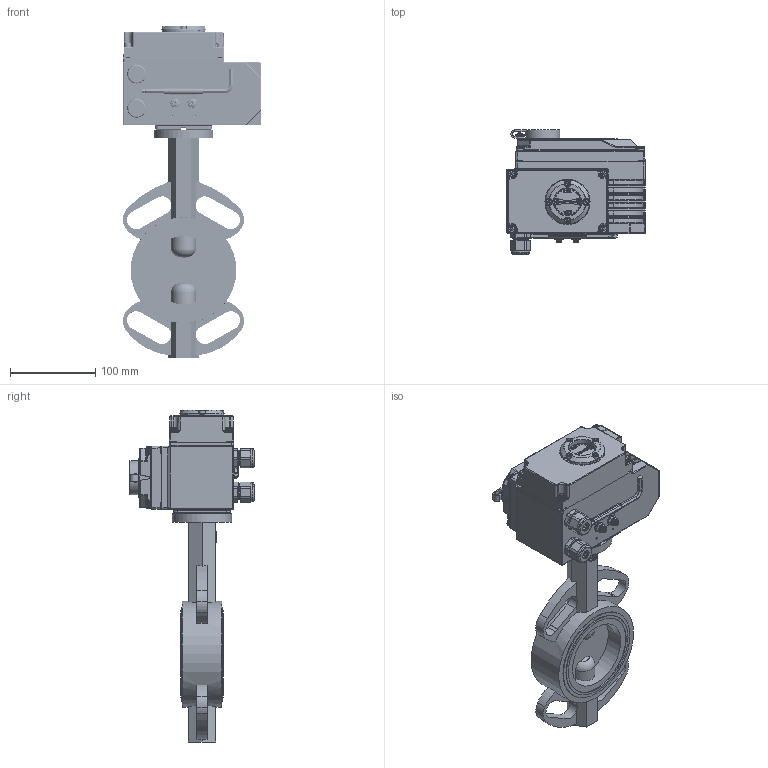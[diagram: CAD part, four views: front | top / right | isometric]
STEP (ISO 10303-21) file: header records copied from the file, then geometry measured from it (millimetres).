
FILE_DESCRIPTION(('STEP AP203'), '1');
FILE_NAME('3D_200_201-080-16-Ï.31', '', ('UNSPECIFIED'), ('UNSPECIFIED'), 'C3D Converter', 'C3D Toolkit', '');
FILE_SCHEMA(('CONFIG_CONTROL_DESIGN'));
Length unit declared in the file: millimetre
Bounding box: 162.06 x 145.5 x 389.5 mm (x, y, z)
Volume: 2096536.8 mm3; surface area: 234470.1 mm2
Topology: 39 solids, 39 shells, 5936 faces, 16399 edges, 10533 vertices
Faces by surface type: plane 3458, cylinder 1403, bspline 331, cone 326, torus 307, sphere 111
Full cylindrical faces by diameter (mm): 2 x2, 2.5 x3, 3 x2, 3.2 x1, 3.3 x2, 4 x20, 4.2 x7, 4.4 x8, 4.5 x4, 4.7 x4, 5 x48, 5.6 x1, 5.8 x8, 6 x23, 6.4 x2, 6.8 x4, 7 x4, 7.8 x8, 9 x2, 9.78 x4, 10 x1, 10.5 x2, 12 x4, 14 x2, 20 x2, 22 x2, 25 x1, 30 x1, 32 x2, 37.7 x1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
Entity records: 350504 total; most frequent: CARTESIAN_POINT 158567, ORIENTED_EDGE 31650, DIRECTION 27483, EDGE_CURVE 15825, VERTEX_POINT 10497, AXIS2_PLACEMENT_3D 9336, LINE 8811, VECTOR 8811
